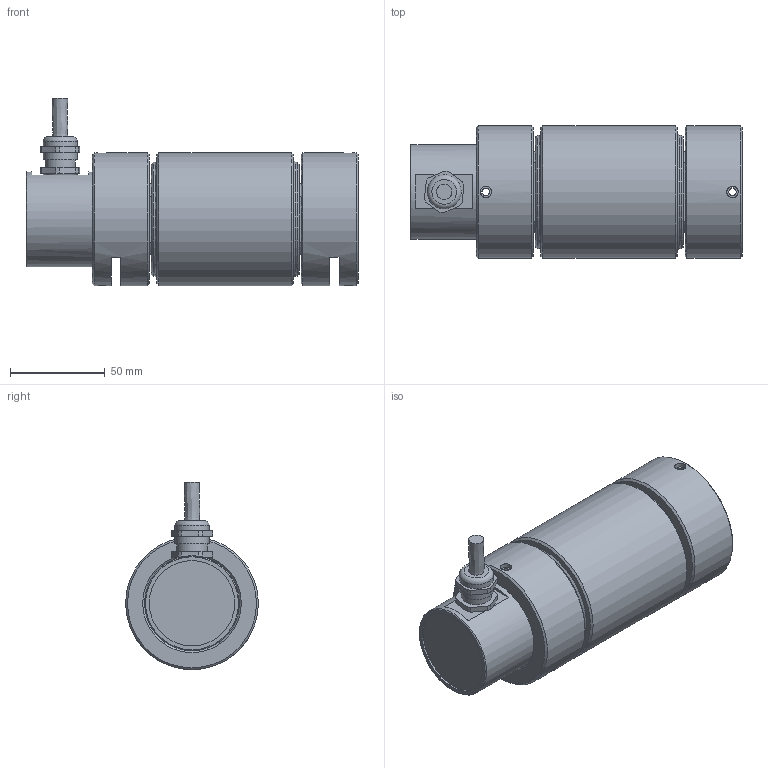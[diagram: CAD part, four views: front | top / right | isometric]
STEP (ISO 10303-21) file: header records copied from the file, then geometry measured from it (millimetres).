
FILE_DESCRIPTION(/* description */ ('Alibre Inc.'),/* implementation_level */ '2;1');
FILE_NAME(/* name */ 'export-516F59E9-ACF5-46FB-90CC-265ABA286FBB',/* time_stamp */ '2019-03-08T13:08:44+01:00',/* author */ (''),/* organization */ (''),/* preprocessor_version */ 'ST-DEVELOPER v17',/* originating_system */ 'Alibre',/* authorisation */ '');
FILE_SCHEMA (('CONFIG_CONTROL_DESIGN'));
Length unit declared in the file: centimetre
Products named in the file (9): ID_1; ID_2; ID_3
Bounding box: 175 x 70 x 98.77 mm (x, y, z)
Volume: 569000.3 mm3; surface area: 106337.6 mm2
Topology: 9 solids, 9 shells, 204 faces, 494 edges, 311 vertices
Faces by surface type: plane 91, cylinder 73, cone 19, torus 18, revolution 2, bspline 1
Full cylindrical faces by diameter (mm): 6 x6, 8 x1, 10 x1, 12 x1, 16 x2, 18 x2, 45 x1, 50 x6, 60 x2, 70 x3
Entity records: 9994 total; most frequent: CARTESIAN_POINT 5448, ORIENTED_EDGE 764, DIRECTION 603, EDGE_CURVE 382, AXIS2_PLACEMENT_3D 264, VERTEX_POINT 263, FACE_BOUND 249, EDGE_LOOP 248
